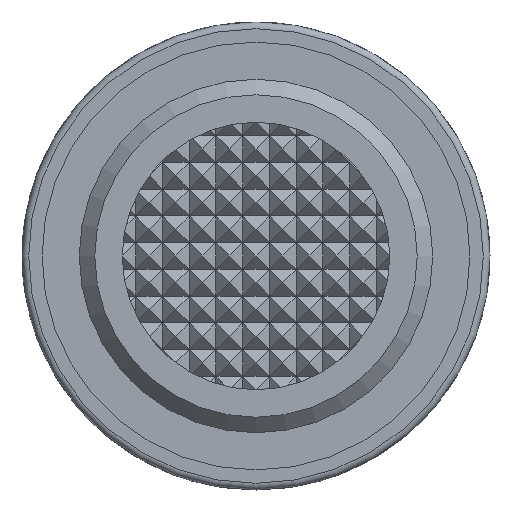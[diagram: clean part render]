
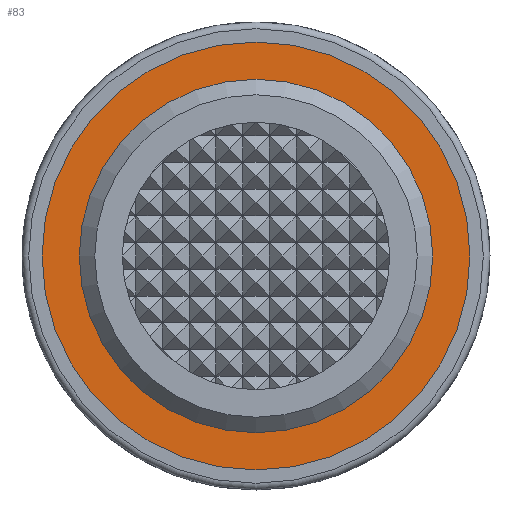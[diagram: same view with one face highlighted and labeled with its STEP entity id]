
A CAD part, left-side view. The second image highlights one B-rep face of the part: STEP entity #83.
In plain terms, the highlighted planar face has unit normal (-1, 0, 0).
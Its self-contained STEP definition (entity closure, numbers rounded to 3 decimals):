
#83 = ADVANCED_FACE( '', ( #478, #479 ), #480, .F. );
#478 = FACE_OUTER_BOUND( '', #1252, .T. );
#479 = FACE_BOUND( '', #1253, .T. );
#480 = PLANE( '', #1254 );
#1252 = EDGE_LOOP( '', ( #2071 ) );
#1253 = EDGE_LOOP( '', ( #2072 ) );
#1254 = AXIS2_PLACEMENT_3D( '', #2073, #2074, #2075 );
#2071 = ORIENTED_EDGE( '', *, *, #4465, .F. );
#2072 = ORIENTED_EDGE( '', *, *, #4466, .T. );
#2073 = CARTESIAN_POINT( '', ( -1., 13.221, 0. ) );
#2074 = DIRECTION( '', ( 1., 0., 0. ) );
#2075 = DIRECTION( '', ( 0., 0., -1. ) );
#4465 = EDGE_CURVE( '', #5133, #5133, #5134, .T. );
#4466 = EDGE_CURVE( '', #5135, #5135, #5136, .T. );
#5133 = VERTEX_POINT( '', #6058 );
#5134 = CIRCLE( '', #6059, 16. );
#5135 = VERTEX_POINT( '', #6060 );
#5136 = CIRCLE( '', #6061, 13.221 );
#6058 = CARTESIAN_POINT( '', ( -1., 0., -16. ) );
#6059 = AXIS2_PLACEMENT_3D( '', #7482, #7483, #7484 );
#6060 = CARTESIAN_POINT( '', ( -1., 0., -13.221 ) );
#6061 = AXIS2_PLACEMENT_3D( '', #7485, #7486, #7487 );
#7482 = CARTESIAN_POINT( '', ( -1., 0., 0. ) );
#7483 = DIRECTION( '', ( 1., 0., 0. ) );
#7484 = DIRECTION( '', ( 0., 0., -1. ) );
#7485 = CARTESIAN_POINT( '', ( -1., 0., 0. ) );
#7486 = DIRECTION( '', ( 1., 0., 0. ) );
#7487 = DIRECTION( '', ( 0., 0., -1. ) );
